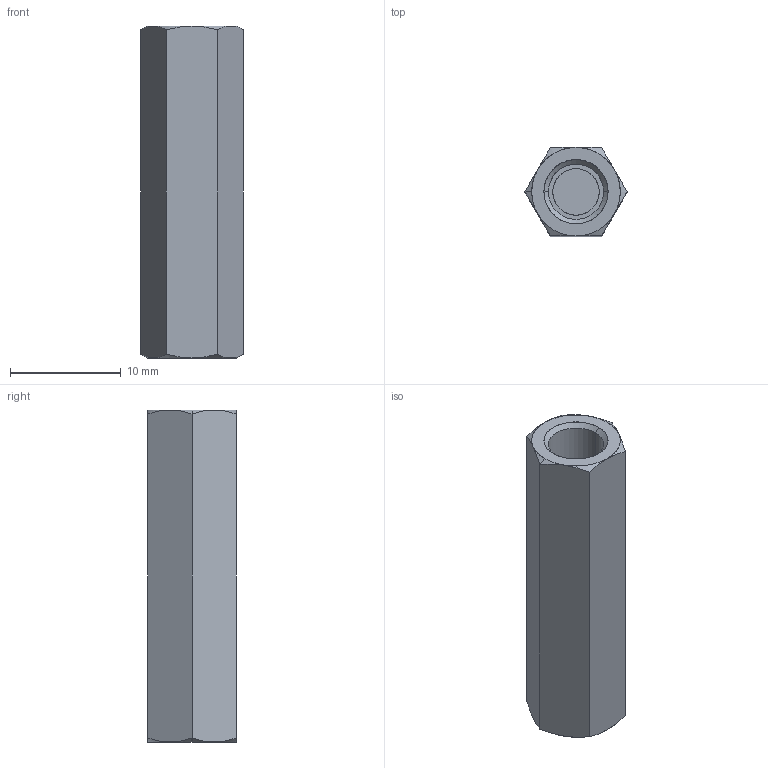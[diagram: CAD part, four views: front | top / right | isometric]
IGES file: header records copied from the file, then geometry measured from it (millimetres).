
Start section: SolidWorks IGES file using analytic representation for surfaces
Global section: file name: C:\Users\ianosborn\Desktop\N0503.NP_v2\N0503.NP_v2_20250227_IGES\N0503.050-030-NP.igs; native system: SolidWorks 2019; preprocessor: SolidWorks 2019; author: IanOsborn; date: 250227.144453; units: millimetre
Bounding box: 9.24 x 8 x 30 mm (x, y, z)
Surface area: 1278.1 mm2 (no closed solid volume)
Topology: 0 solids, 0 shells, 39 faces, 478 edges, 476 vertices
Faces by surface type: revolution 28, bspline 11
